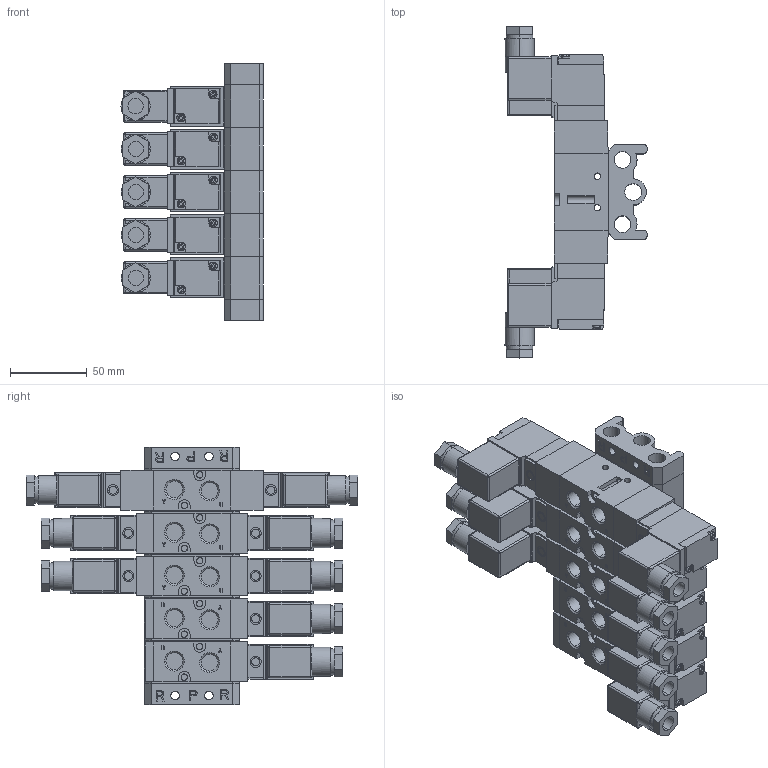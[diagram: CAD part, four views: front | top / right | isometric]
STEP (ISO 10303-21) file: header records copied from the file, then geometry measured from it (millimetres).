
FILE_DESCRIPTION (( 'STEP AP203' ), '1' );
FILE_NAME ('MFU#-RK20.STEP', '2016-06-16T01:59:49', ( '' ), ( '' ), 'SwSTEP 2.0', 'SolidWorks 2014', '' );
FILE_SCHEMA (( 'CONFIG_CONTROL_DESIGN' ));
Length unit declared in the file: millimetre
Products named in the file (34): BODY_4; ADAPTER_1; COIL_ASM_D_11; PILOT_BODY_1_8; PILOT_BODY_17; RKD(E)(O)3420-02-#-D; MSV300_2; PILOT_COVER_1_8; COIL_ASM_D_1_6; PILOT_COVER_17; BODY; COIL_ASM_D_9; ADAPTER_SV230; MFU#-RK20; MSV300_3; ADAPTER_SV230_1; PILOT_BODY_21; PILOT_BODY_1_12; MSV300_2_3; COIL_ASM_D_1_4; MSV300_2_1; MSV300_2_4; PILOT_COVER_21; ADAPTER_3; PILOT_COVER_1_12; ADAPTER; COIL_ASM_D_7; BODY_2; MSV300_2_2; PILOT_BODY_13; RKD2420-02-#-D; PILOT_COVER_13; END_COVER; RKS2420-02-#-D
Assembly tree (36 placements, depth 3):
  MFU#-RK20
    MSV300_2
    MSV300_2_1
    MSV300_2_2
    MSV300_2_3
    MSV300_2_4
    MSV300_3  x2
    RKD(E)(O)3420-02-#-D
      ADAPTER_SV230
      ADAPTER_SV230_1
      BODY
      COIL_ASM_D_7
      COIL_ASM_D_1_4
      PILOT_BODY_13
      PILOT_BODY_1_8
      PILOT_COVER_13
      PILOT_COVER_1_8
    RKD2420-02-#-D  x2
      ADAPTER
      ADAPTER_1
      BODY_2
      COIL_ASM_D_9
      COIL_ASM_D_1_6
      PILOT_BODY_17
      PILOT_BODY_1_12
      PILOT_COVER_17
      PILOT_COVER_1_12
    RKS2420-02-#-D  x2
      ADAPTER_3
      BODY_4
      COIL_ASM_D_11
      END_COVER
      PILOT_BODY_21
      PILOT_COVER_21
Bounding box: 92.62 x 216.5 x 168 mm (x, y, z)
Volume: 894562 mm3; surface area: 270013.4 mm2
Topology: 46 solids, 46 shells, 3255 faces, 8608 edges, 5658 vertices
Faces by surface type: plane 2459, cylinder 648, bspline 50, cone 50, torus 48
Entity records: 70490 total; most frequent: CARTESIAN_POINT 15175, ORIENTED_EDGE 10826, DIRECTION 10433, EDGE_CURVE 5413, LINE 4197, VECTOR 4197, VERTEX_POINT 3558, AXIS2_PLACEMENT_3D 3118
